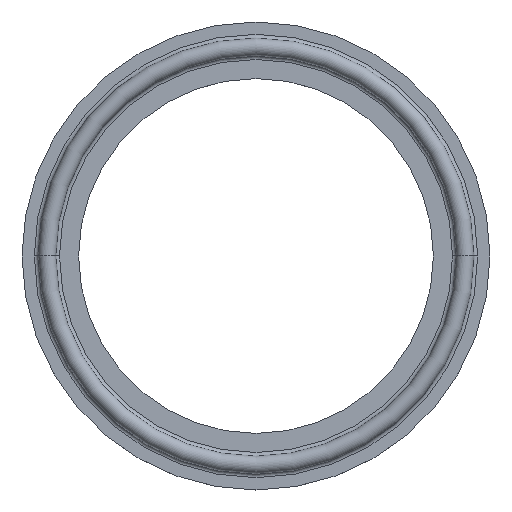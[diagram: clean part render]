
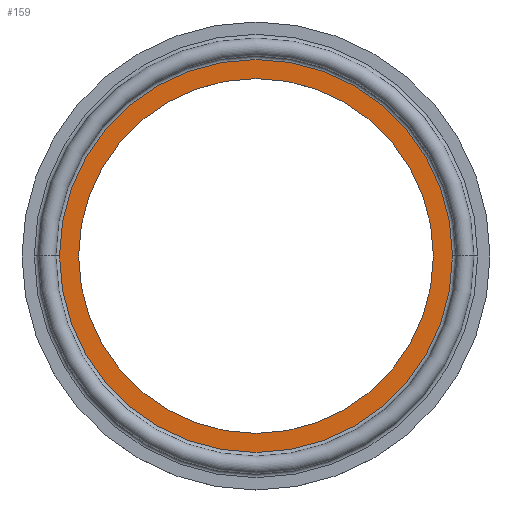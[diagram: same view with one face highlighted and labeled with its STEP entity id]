
A CAD part, top view. The second image highlights one B-rep face of the part: STEP entity #159.
In plain terms, the highlighted planar face has unit normal (0, 0, 1).
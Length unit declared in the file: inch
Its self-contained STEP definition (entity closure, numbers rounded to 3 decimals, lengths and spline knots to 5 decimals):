
#1 = DIRECTION ( 'NONE',  ( 1., 0., 0. ) ) ;
#27 = CARTESIAN_POINT ( 'NONE',  ( 0., 0., 0. ) ) ;
#45 = DIRECTION ( 'NONE',  ( -1., 0., 0. ) ) ;
#46 = EDGE_CURVE ( 'NONE', #307, #481, #195, .T. ) ;
#63 = CIRCLE ( 'NONE', #475, 0.941 ) ;
#71 = DIRECTION ( 'NONE',  ( 0., 0., 1. ) ) ;
#85 = ORIENTED_EDGE ( 'NONE', *, *, #264, .F. ) ;
#100 = PLANE ( 'NONE',  #197 ) ;
#104 = DIRECTION ( 'NONE',  ( 1., 0., 0. ) ) ;
#118 = DIRECTION ( 'NONE',  ( 1., 0., 0. ) ) ;
#133 = EDGE_CURVE ( 'NONE', #548, #504, #63, .T. ) ;
#146 = CARTESIAN_POINT ( 'NONE',  ( 0., 0.941, 0. ) ) ;
#156 = ORIENTED_EDGE ( 'NONE', *, *, #328, .T. ) ;
#159 = ADVANCED_FACE ( 'NONE', ( #332, #297 ), #100, .F. ) ;
#166 = CARTESIAN_POINT ( 'NONE',  ( 0., 0., 0. ) ) ;
#172 = DIRECTION ( 'NONE',  ( 0., 0., 1. ) ) ;
#183 = EDGE_LOOP ( 'NONE', ( #253, #156 ) ) ;
#195 = CIRCLE ( 'NONE', #533, 1.04212 ) ;
#197 = AXIS2_PLACEMENT_3D ( 'NONE', #146, #247, #45 ) ;
#247 = DIRECTION ( 'NONE',  ( 0., 0., -1. ) ) ;
#253 = ORIENTED_EDGE ( 'NONE', *, *, #46, .T. ) ;
#264 = EDGE_CURVE ( 'NONE', #504, #548, #572, .T. ) ;
#297 = FACE_OUTER_BOUND ( 'NONE', #183, .T. ) ;
#307 = VERTEX_POINT ( 'NONE', #360 ) ;
#327 = CARTESIAN_POINT ( 'NONE',  ( 0.941, 0., 0. ) ) ;
#328 = EDGE_CURVE ( 'NONE', #481, #307, #491, .T. ) ;
#332 = FACE_BOUND ( 'NONE', #407, .T. ) ;
#360 = CARTESIAN_POINT ( 'NONE',  ( 1.04212, 0., 0. ) ) ;
#407 = EDGE_LOOP ( 'NONE', ( #85, #595 ) ) ;
#424 = CARTESIAN_POINT ( 'NONE',  ( -0.941, 0., 0. ) ) ;
#434 = DIRECTION ( 'NONE',  ( 0., 0., 1. ) ) ;
#440 = CARTESIAN_POINT ( 'NONE',  ( 0., 0., 0. ) ) ;
#475 = AXIS2_PLACEMENT_3D ( 'NONE', #440, #71, #1 ) ;
#481 = VERTEX_POINT ( 'NONE', #500 ) ;
#491 = CIRCLE ( 'NONE', #520, 1.04212 ) ;
#500 = CARTESIAN_POINT ( 'NONE',  ( -1.04212, 0., 0. ) ) ;
#504 = VERTEX_POINT ( 'NONE', #327 ) ;
#520 = AXIS2_PLACEMENT_3D ( 'NONE', #166, #434, #581 ) ;
#521 = CARTESIAN_POINT ( 'NONE',  ( 0., 0., 0. ) ) ;
#530 = DIRECTION ( 'NONE',  ( 0., 0., 1. ) ) ;
#533 = AXIS2_PLACEMENT_3D ( 'NONE', #521, #530, #104 ) ;
#543 = AXIS2_PLACEMENT_3D ( 'NONE', #27, #172, #118 ) ;
#548 = VERTEX_POINT ( 'NONE', #424 ) ;
#572 = CIRCLE ( 'NONE', #543, 0.941 ) ;
#581 = DIRECTION ( 'NONE',  ( 1., 0., 0. ) ) ;
#595 = ORIENTED_EDGE ( 'NONE', *, *, #133, .F. ) ;
